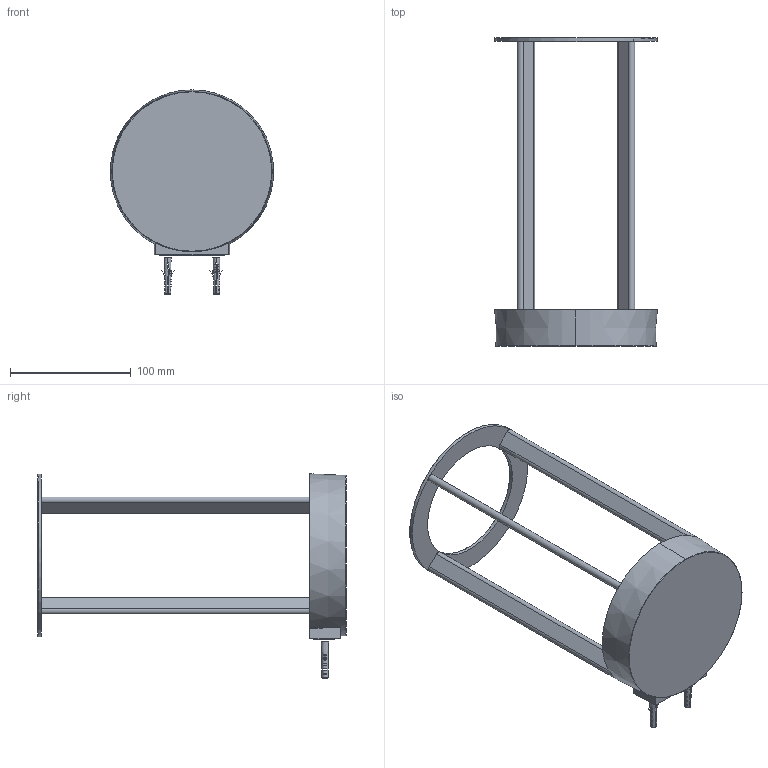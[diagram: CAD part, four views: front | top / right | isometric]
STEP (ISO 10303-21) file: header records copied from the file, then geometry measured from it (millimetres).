
FILE_DESCRIPTION((''),'2;1');
FILE_NAME('PARETE_SW0001','2025-06-19T08:29:48',('Piccioli'),(''),'CREO PARAMETRIC BY PTC INC, 2020354','CREO PARAMETRIC BY PTC INC, 2020354','');
FILE_SCHEMA(('CONFIG_CONTROL_DESIGN'));
Length unit declared in the file: millimetre
Products named in the file (1): PARETE_SW0001
Bounding box: 134.62 x 255 x 168.9 mm (x, y, z)
Surface area: 107743.9 mm2 (no closed solid volume)
Topology: 0 solids, 50 shells, 133 faces, 1139 edges, 1036 vertices
Faces by surface type: plane 69, cone 22, cylinder 16, torus 13, bspline 9, sphere 4
Entity records: 14074 total; most frequent: CARTESIAN_POINT 6529, DIRECTION 1331, ORIENTED_EDGE 1283, EDGE_CURVE 1138, VERTEX_POINT 1036, AXIS2_PLACEMENT_3D 478, B_SPLINE_CURVE_WITH_KNOTS 409, VECTOR 375
